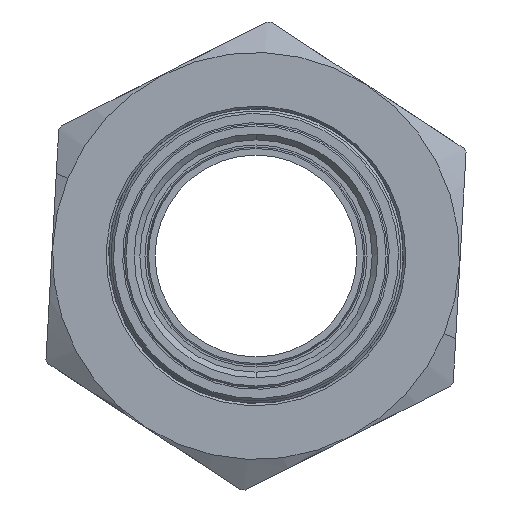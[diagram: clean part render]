
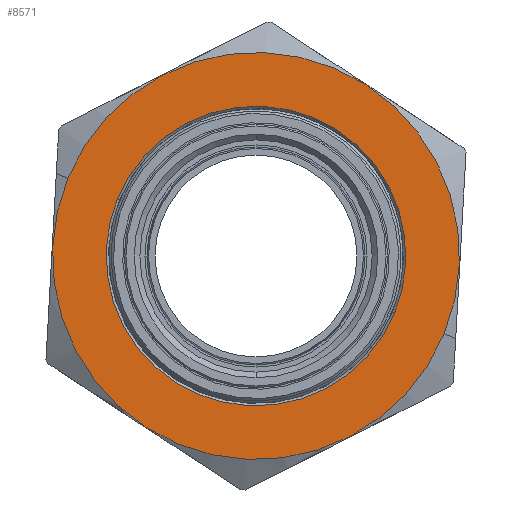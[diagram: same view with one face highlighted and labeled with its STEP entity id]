
A CAD part, left-side view. The second image highlights one B-rep face of the part: STEP entity #8571.
In plain terms, the highlighted planar face has unit normal (-1, 0, 0) as drawn and (1, 0, 0) by its records, which use the part's own axes.
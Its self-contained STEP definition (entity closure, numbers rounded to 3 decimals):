
#104 = EDGE_CURVE ( 'NONE', #5670, #5695, #5751, .T. ) ;
#261 = EDGE_CURVE ( 'NONE', #5702, #5694, #5979, .T. ) ;
#268 = EDGE_CURVE ( 'NONE', #5694, #5702, #5972, .T. ) ;
#269 = EDGE_CURVE ( 'NONE', #5695, #5670, #5992, .T. ) ;
#484 = AXIS2_PLACEMENT_3D ( 'NONE', #4095, #4098, #4111 ) ;
#4095 = CARTESIAN_POINT ( 'NONE',  ( 14., 18.25, 0. ) ) ;
#4096 = PLANE ( 'NONE',  #484 ) ;
#4098 = DIRECTION ( 'NONE',  ( -1., 0., 0. ) ) ;
#4111 = DIRECTION ( 'NONE',  ( 0., 0., 1. ) ) ;
#5008 = FACE_OUTER_BOUND ( 'NONE', #10563, .T. ) ;
#5034 = FACE_BOUND ( 'NONE', #10578, .T. ) ;
#5670 = VERTEX_POINT ( 'NONE', #6606 ) ;
#5694 = VERTEX_POINT ( 'NONE', #6611 ) ;
#5695 = VERTEX_POINT ( 'NONE', #6612 ) ;
#5702 = VERTEX_POINT ( 'NONE', #6582 ) ;
#5751 = CIRCLE ( 'NONE', #6104, 18.55 ) ;
#5972 = CIRCLE ( 'NONE', #6251, 25.2 ) ;
#5979 = CIRCLE ( 'NONE', #6252, 25.2 ) ;
#5992 = CIRCLE ( 'NONE', #6253, 18.55 ) ;
#6104 = AXIS2_PLACEMENT_3D ( 'NONE', #7922, #7971, #7988 ) ;
#6251 = AXIS2_PLACEMENT_3D ( 'NONE', #6400, #6402, #6431 ) ;
#6252 = AXIS2_PLACEMENT_3D ( 'NONE', #7909, #7892, #7875 ) ;
#6253 = AXIS2_PLACEMENT_3D ( 'NONE', #6428, #6437, #6425 ) ;
#6400 = CARTESIAN_POINT ( 'NONE',  ( 14., 0., 0. ) ) ;
#6402 = DIRECTION ( 'NONE',  ( -1., 0., 0. ) ) ;
#6425 = DIRECTION ( 'NONE',  ( 0., 0., 1. ) ) ;
#6428 = CARTESIAN_POINT ( 'NONE',  ( 14., 0., 0. ) ) ;
#6431 = DIRECTION ( 'NONE',  ( 0., 0., 1. ) ) ;
#6437 = DIRECTION ( 'NONE',  ( -1., 0., 0. ) ) ;
#6582 = CARTESIAN_POINT ( 'NONE',  ( 14., 0., -25.2 ) ) ;
#6606 = CARTESIAN_POINT ( 'NONE',  ( 14., 0., -18.55 ) ) ;
#6611 = CARTESIAN_POINT ( 'NONE',  ( 14., 0., 25.2 ) ) ;
#6612 = CARTESIAN_POINT ( 'NONE',  ( 14., 0., 18.55 ) ) ;
#7875 = DIRECTION ( 'NONE',  ( 0., 0., 1. ) ) ;
#7892 = DIRECTION ( 'NONE',  ( -1., 0., 0. ) ) ;
#7909 = CARTESIAN_POINT ( 'NONE',  ( 14., 0., 0. ) ) ;
#7922 = CARTESIAN_POINT ( 'NONE',  ( 14., 0., 0. ) ) ;
#7971 = DIRECTION ( 'NONE',  ( -1., 0., 0. ) ) ;
#7988 = DIRECTION ( 'NONE',  ( 0., 0., 1. ) ) ;
#8571 = ADVANCED_FACE ( 'NONE', ( #5034, #5008 ), #4096, .F. ) ;
#10138 = ORIENTED_EDGE ( 'NONE', *, *, #104, .T. ) ;
#10154 = ORIENTED_EDGE ( 'NONE', *, *, #261, .F. ) ;
#10155 = ORIENTED_EDGE ( 'NONE', *, *, #269, .T. ) ;
#10166 = ORIENTED_EDGE ( 'NONE', *, *, #268, .F. ) ;
#10563 = EDGE_LOOP ( 'NONE', ( #10166, #10154 ) ) ;
#10578 = EDGE_LOOP ( 'NONE', ( #10138, #10155 ) ) ;
